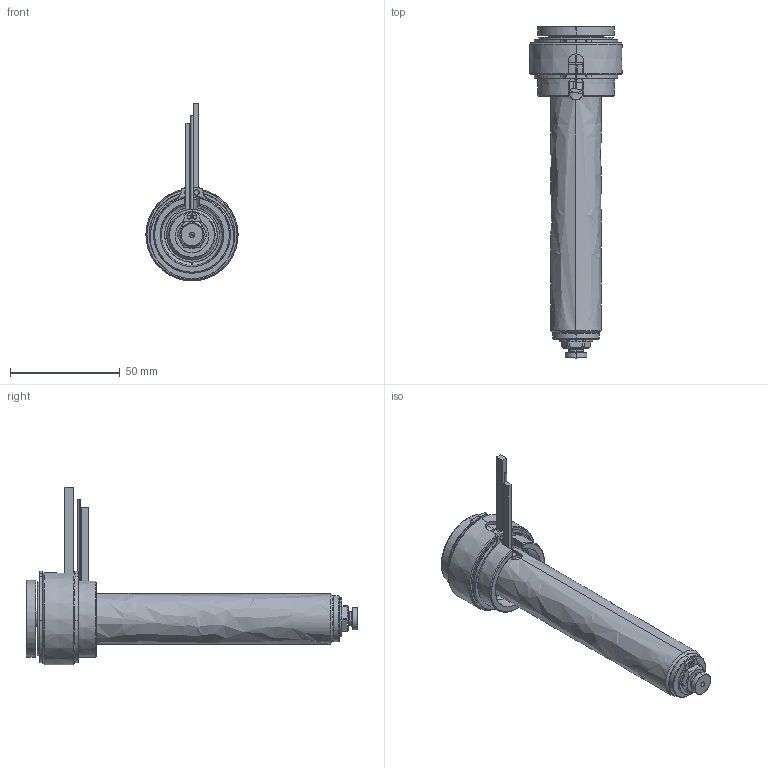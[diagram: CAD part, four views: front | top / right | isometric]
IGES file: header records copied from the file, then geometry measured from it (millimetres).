
Start section: SolidWorks IGES file using analytic representation for surfaces
Global section: file name: C:\Users\luca.EMPAD\Desktop\TEM\UGBE3503-S-A-5 [Ød-1.0 P-0 ØC-7.0].IGS; native system: SolidWorks 2012; preprocessor: SolidWorks 2012; author: luca; date: 120330.140526; units: millimetre
Bounding box: 42 x 151 x 80.9 mm (x, y, z)
Surface area: 37890 mm2 (no closed solid volume)
Topology: 0 solids, 0 shells, 192 faces, 3598 edges, 3598 vertices
Faces by surface type: revolution 122, bspline 70
